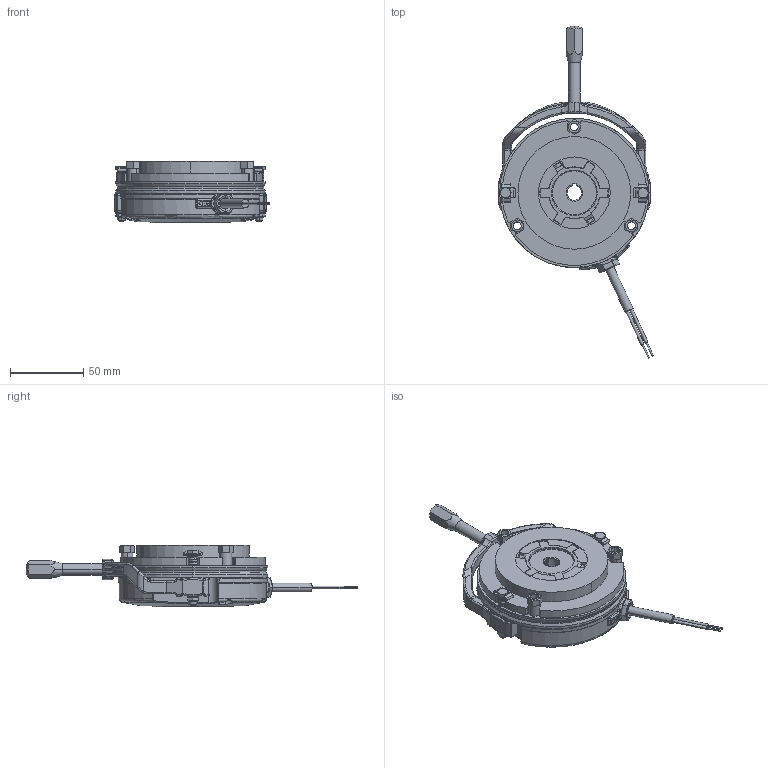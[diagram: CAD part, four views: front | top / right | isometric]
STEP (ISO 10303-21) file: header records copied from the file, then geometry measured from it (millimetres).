
FILE_DESCRIPTION (( 'STEP AP214' ), '1' );
FILE_NAME ('0338 mit HL.STEP', '2025-03-26T07:19:42', ( '' ), ( '' ), 'SwSTEP 2.0', 'SolidWorks 2022', '' );
FILE_SCHEMA (( 'AUTOMOTIVE_DESIGN' ));
Length unit declared in the file: millimetre
Products named in the file (7): 10068362_000; 10068368_000; 10068364_000; 0338 mit HL; 10068366_000; 10068365_000; 10068363_000
Assembly tree (8 placements, depth 2):
  0338 mit HL
    10068363_000
    10068365_000
    10068362_000  x3
    10068364_000
    10068366_000
    10068368_000
Bounding box: 105.76 x 226.77 x 41.7 mm (x, y, z)
Volume: 278340.5 mm3; surface area: 77020.1 mm2
Topology: 20 solids, 20 shells, 1190 faces, 2910 edges, 1765 vertices
Faces by surface type: cylinder 419, plane 349, bspline 204, cone 96, torus 76, sphere 46
Entity records: 56335 total; most frequent: CARTESIAN_POINT 20669, ORIENTED_EDGE 5616, DIRECTION 5084, EDGE_CURVE 2808, AXIS2_PLACEMENT_3D 1984, VERTEX_POINT 1713, EDGE_LOOP 1221, FACE_OUTER_BOUND 1156
